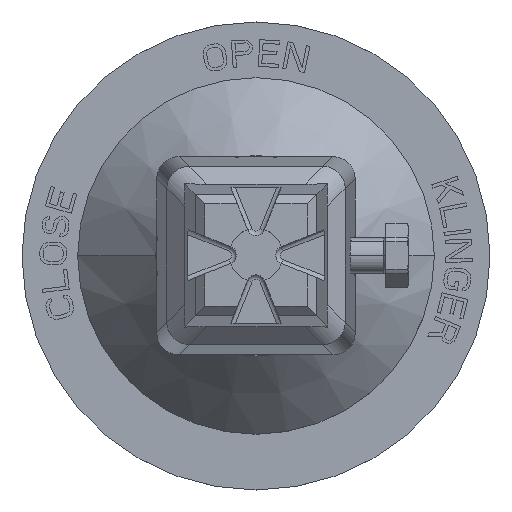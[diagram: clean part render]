
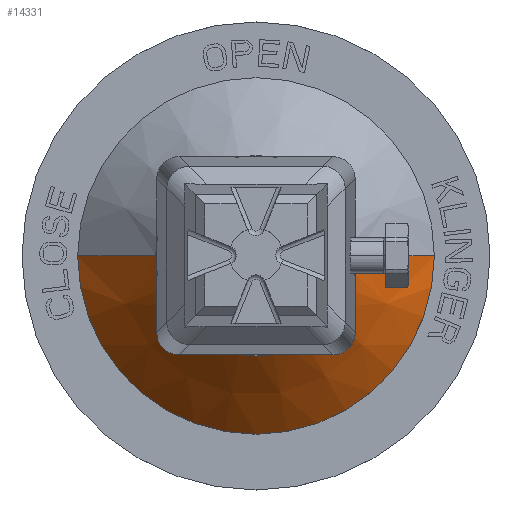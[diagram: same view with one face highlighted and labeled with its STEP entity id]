
A CAD part, top view. The second image highlights one B-rep face of the part: STEP entity #14331.
In plain terms, the highlighted conical face has half-angle 42.647 degrees and reference radius 31.25 mm.
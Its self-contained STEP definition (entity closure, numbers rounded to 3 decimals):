
#14062=DIRECTION('',(-0.677,0.,0.736));
#14063=VECTOR('',#14062,25.831);
#14064=CARTESIAN_POINT('',(40.,0.,6.));
#14065=LINE('',#14064,#14063);
#14069=DIRECTION('',(0.677,0.,0.736));
#14070=VECTOR('',#14069,25.831);
#14071=CARTESIAN_POINT('',(-40.,0.,6.));
#14072=LINE('',#14071,#14070);
#14084=CARTESIAN_POINT('',(0.,0.,6.));
#14085=DIRECTION('',(0.,0.,-1.));
#14086=DIRECTION('',(1.,0.,0.));
#14087=AXIS2_PLACEMENT_3D('',#14084,#14085,#14086);
#14100=CARTESIAN_POINT('',(0.,0.,25.));
#14101=DIRECTION('',(0.,0.,-1.));
#14102=DIRECTION('',(1.,0.,0.));
#14103=AXIS2_PLACEMENT_3D('',#14100,#14101,#14102);
#14223=CARTESIAN_POINT('',(40.,0.,6.));
#14225=VERTEX_POINT('',#14223);
#14226=CARTESIAN_POINT('',(22.5,0.,25.));
#14227=VERTEX_POINT('',#14226);
#14233=CARTESIAN_POINT('',(-40.,0.,6.));
#14235=VERTEX_POINT('',#14233);
#14236=CARTESIAN_POINT('',(-22.5,0.,25.));
#14237=VERTEX_POINT('',#14236);
#14319=CARTESIAN_POINT('',(0.,0.,15.5));
#14320=DIRECTION('',(0.,0.,-1.));
#14321=DIRECTION('',(-1.,0.,0.));
#14322=AXIS2_PLACEMENT_3D('',#14319,#14320,#14321);
#14323=CONICAL_SURFACE('',#14322,31.25,42.647);
#14324=ORIENTED_EDGE('',*,*,#14309,.F.);
#14325=ORIENTED_EDGE('',*,*,#14286,.T.);
#14326=ORIENTED_EDGE('',*,*,#14313,.T.);
#14328=ORIENTED_EDGE('',*,*,#14327,.F.);
#14329=EDGE_LOOP('',(#14324,#14325,#14326,#14328));
#14330=FACE_OUTER_BOUND('',#14329,.F.);
#14088=CIRCLE('',#14087,40.);
#14104=CIRCLE('',#14103,22.5);
#14286=EDGE_CURVE('',#14225,#14235,#14088,.T.);
#14309=EDGE_CURVE('',#14225,#14227,#14065,.T.);
#14313=EDGE_CURVE('',#14235,#14237,#14072,.T.);
#14327=EDGE_CURVE('',#14227,#14237,#14104,.T.);
#14331=ADVANCED_FACE('',(#14330),#14323,.T.);
